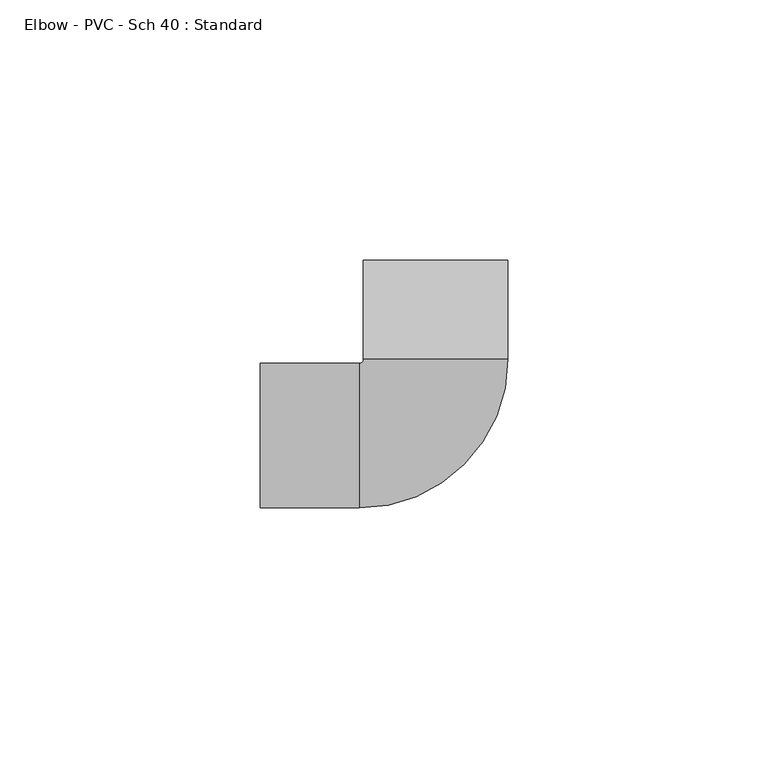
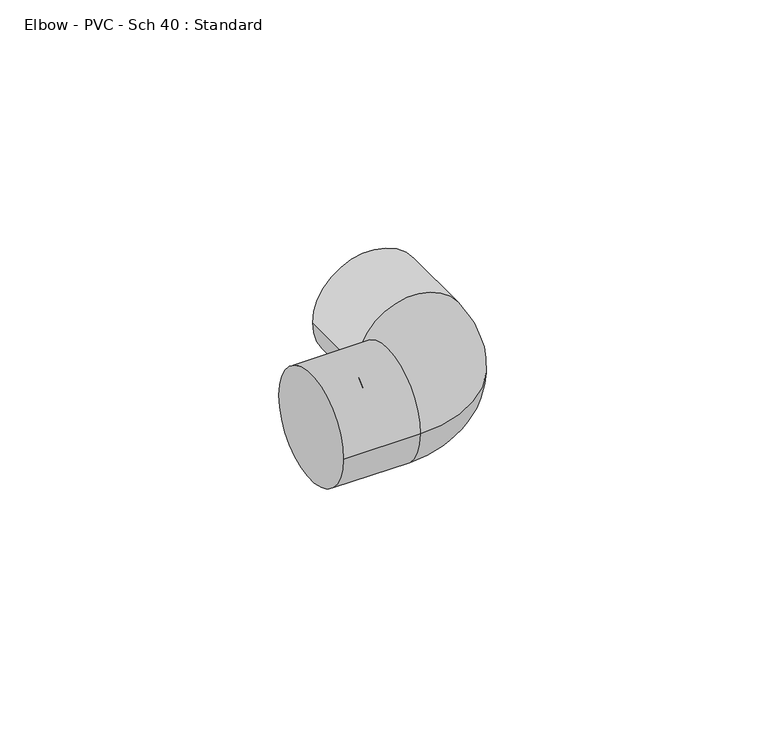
"""IFC4 building model written with IfcOpenShell, lengths in millimetres: pipe fitting geometry, Elbow - PVC - Sch 40 : Standard."""

from ifc_helpers import new_model, si_unit, point, frame, origin, place, context, project, spatial, circle_curve, ellipse_curve, trimmed, source, transform, mapped, element, save
from ifc_brep_helpers import plane_surface, cylinder_surface, revolved_surface, advanced_brep


def elbow_pvc_sch_40_standard_49eec4e1(model_context):
    return source(origin(), model_context, "Body", "AdvancedBrep", [
        advanced_brep(
        [(-33.73755, -13.8938, 0.0), (-33.73755, 13.8938, 0.0), (-14.68755, -13.8938, 0.0), (-14.68755, 13.8938, 0.0), (-13.8938, 14.68755, 0.0), (13.8938, 14.68755, 0.0), (13.8938, 33.73755, 0.0), (-13.8938, 33.73755, 0.0)],
        [
            (0, 1, circle_curve(frame((-33.73755, 0.0, 0.0), z_axis=(-1.0, 0.0, 0.0), x_axis=(0.0, 1.0, 0.0)), 13.8938)),
            (1, 0, circle_curve(frame((-33.73755, 0.0, 0.0), z_axis=(-1.0, 0.0, 0.0), x_axis=(0.0, 1.0, 0.0)), 13.8938)),
            (0, 2),
            (2, 3, circle_curve(frame((-14.68755, 0.0, 0.0), z_axis=(-1.0, 0.0, 0.0), x_axis=(0.0, 1.0, 0.0)), 13.8938)),
            (3, 1),
            (3, 2, circle_curve(frame((-14.68755, 0.0, 0.0), z_axis=(-1.0, 0.0, 0.0), x_axis=(0.0, 1.0, 0.0)), 13.8938)),
            (4, 3, circle_curve(frame((-14.68755, 14.68755, 0.0), z_axis=(0.0, 0.0, -1.0), x_axis=(0.0, -1.0, 0.0)), 0.79375)),
            (2, 5, circle_curve(frame((-14.68755, 14.68755, 0.0), z_axis=(0.0, 0.0, 1.0), x_axis=(0.0, -1.0, 0.0)), 28.58135)),
            (5, 4, circle_curve(frame((0.0, 14.68755, 0.0), z_axis=(0.0, -1.0, 0.0), x_axis=(-1.0, 0.0, 0.0)), 13.8938)),
            (4, 5, circle_curve(frame((0.0, 14.68755, 0.0), z_axis=(0.0, -1.0, 0.0), x_axis=(-1.0, 0.0, 0.0)), 13.8938)),
            (6, 7, circle_curve(frame((0.0, 33.73755, 0.0), z_axis=(0.0, 1.0, 0.0), x_axis=(-1.0, 0.0, 0.0)), 13.8938)),
            (7, 6, circle_curve(frame((0.0, 33.73755, 0.0), z_axis=(0.0, 1.0, 0.0), x_axis=(-1.0, 0.0, 0.0)), 13.8938)),
            (5, 6),
            (7, 4),
        ],
        [
            plane_surface(frame((-33.73755, 0.0, 0.0), z_axis=(-1.0, 0.0, 0.0), x_axis=(0.0, 0.0, 1.0))),
            cylinder_surface(frame((-33.73755, 0.0, 0.0), z_axis=(-1.0, 0.0, 0.0), x_axis=(0.0, 1.0, 0.0)), 13.8938),
            revolved_surface(trimmed(ellipse_curve(frame((-14.68755, 0.0, 0.0), z_axis=(-1.0, 0.0, 0.0), x_axis=(0.0, 1.0, 0.0)), 13.8938, 13.8938), [point((-14.68755, -13.8938, 0.0))], [point((-14.68755, 13.8938, 0.0))], True, "CARTESIAN"), (-14.68755, 14.68755, 0.0), (0.0, 0.0, 1.0)),
            revolved_surface(trimmed(ellipse_curve(frame((-14.68755, 0.0, 0.0), z_axis=(-1.0, 0.0, 0.0), x_axis=(0.0, 1.0, 0.0)), 13.8938, 13.8938), [point((-14.68755, 13.8938, 0.0))], [point((-14.68755, -13.8938, 0.0))], True, "CARTESIAN"), (-14.68755, 14.68755, 0.0), (0.0, 0.0, 1.0)),
            plane_surface(frame((0.0, 33.73755, 0.0), z_axis=(0.0, 1.0, 0.0), x_axis=(0.0, 0.0, 1.0))),
            cylinder_surface(frame((0.0, 14.68755, 0.0), z_axis=(0.0, -1.0, 0.0), x_axis=(-1.0, 0.0, 0.0)), 13.8938),
        ],
        [
            (0, [[1, 2]]),
            (1, [[-1, 3, 4, 5]]),
            (1, [[-2, -5, 6, -3]]),
            (2, [[7, -4, 8, 9]]),
            (3, [[-8, -6, -7, 10]]),
            (4, [[11, 12]]),
            (5, [[-9, 13, -12, 14]]),
            (5, [[-10, -14, -11, -13]]),
        ],
    ),
    ])


if __name__ == "__main__":
    model = new_model("IFC4")
    model_context = context("Model", 3, world=origin())
    ifc_project = project(units=[si_unit("LENGTHUNIT", "METRE", prefix="MILLI")], contexts=[model_context])
    site = spatial("IfcSite", under=ifc_project)
    building = spatial("IfcBuilding", under=site)
    placement = place(None, origin())
    elbow_pvc_sch_40_standard_shape = elbow_pvc_sch_40_standard_49eec4e1(model_context)
    element("IfcPipeFitting", 1, ObjectType="Elbow - PVC - Sch 40 : Standard", at=placement, inside=building, context=model_context, shape_type="MappedRepresentation", body=[
        mapped(elbow_pvc_sch_40_standard_shape, transform((0.0, 0.0, 0.0), x_axis=(1.0, 0.0, 0.0), y_axis=(0.0, 1.0, 0.0), z_axis=(0.0, 0.0, 1.0))),
    ])
    save(model, "model.ifc")
